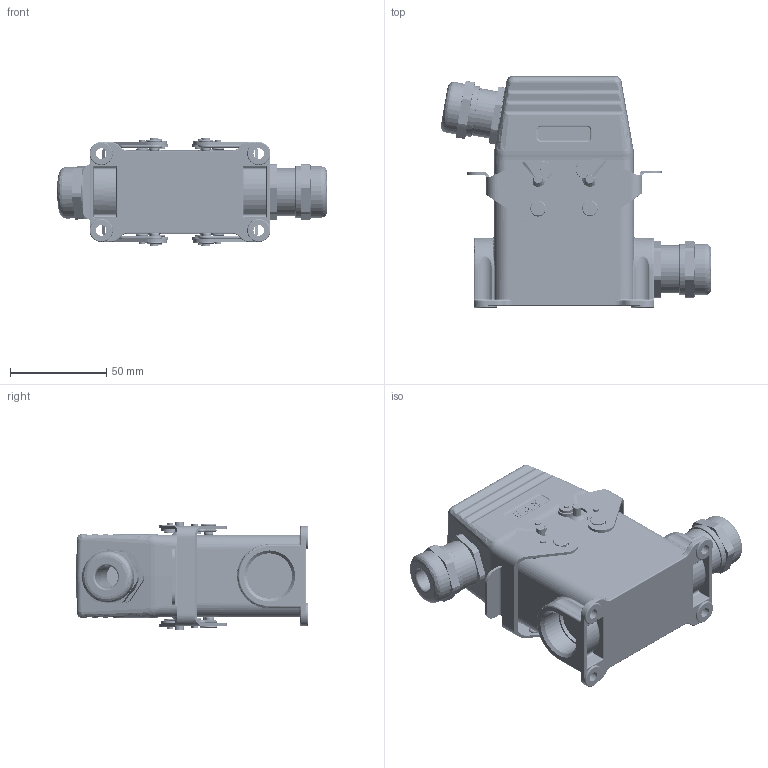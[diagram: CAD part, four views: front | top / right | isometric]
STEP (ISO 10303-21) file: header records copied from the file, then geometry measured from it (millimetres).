
FILE_DESCRIPTION (( 'STEP AP214' ), '1' );
FILE_NAME ('09010103220P HE、10针、表面底序、侧出M20套件、塑料接头.STEP', '2024-04-26T07:14:43', ( 'L' ), ( '' ), 'SwSTEP 2.0', 'SolidWorks 2019', '' );
FILE_SCHEMA (( 'AUTOMOTIVE_DESIGN' ));
Length unit declared in the file: millimetre
Products named in the file (6): HE-010-F.stp; H10B-SGR-M20.step; 09010103220P HE、10针、表面底序、侧出M20套件、塑料接头; FAS-20-P.step; HE-010-M.stp; H10B-TS-M20.step
Assembly tree (6 placements, depth 2):
  09010103220P HE、10针、表面底序、侧出M20套件、塑料接头
    H10B-TS-M20.step
    HE-010-F.stp
    HE-010-M.stp
    FAS-20-P.step  x2
    H10B-SGR-M20.step
Bounding box: 140.48 x 120.6 x 56.4 mm (x, y, z)
Volume: 225528.4 mm3; surface area: 132484.2 mm2
Topology: 7 solids, 11 shells, 5222 faces, 14068 edges, 8864 vertices
Faces by surface type: plane 2285, cylinder 1191, bspline 902, cone 473, torus 313, sphere 58
Entity records: 219145 total; most frequent: CARTESIAN_POINT 85399, ORIENTED_EDGE 27598, DIRECTION 22011, EDGE_CURVE 13799, VERTEX_POINT 8754, AXIS2_PLACEMENT_3D 7664, VECTOR 6683, LINE 6683
